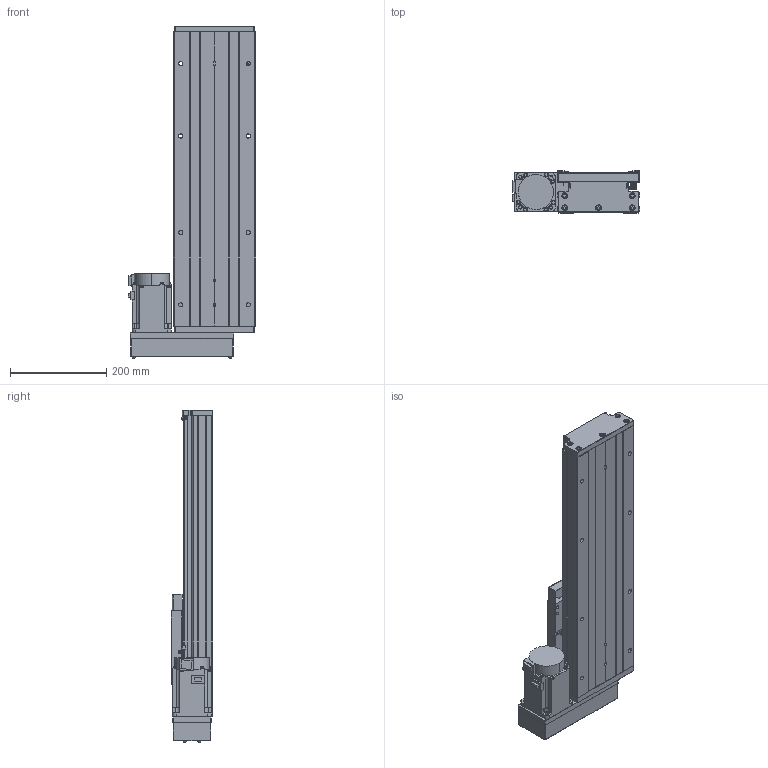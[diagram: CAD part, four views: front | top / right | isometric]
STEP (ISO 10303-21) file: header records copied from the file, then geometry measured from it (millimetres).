
FILE_DESCRIPTION (( 'STEP AP203' ), '1' );
FILE_NAME ('GTH17-350-BL-M75-C4.step', '2023-06-30T12:00:20', ( '微软用户' ), ( '微软中国' ), 'SwSTEP 2.0', 'SolidWorks 2020', '' );
FILE_SCHEMA (( 'CONFIG_CONTROL_DESIGN' ));
Length unit declared in the file: millimetre
Products named in the file (19): GBT 70.2-M4¡Á45_M4¡Á35; GTH17-004; GBT77-2000 M3×3; GTH17-015-2_CTHA86-015-2; GTH17-005; GBT 70.1-M6¡Á20_M6¡Á20; GTH17-033; GB1155-6X6; GTH17-031; GTH17-350-BL-M75-C4; CTHA60-017; GBT 70.2-M3¡Á5_M3¡Á6; EE_SX911P_R; す晦芛蹟隊 M3℅5; GTH17-001_350; CTHA60-016; HG-KN73J-S100; GTH17-002_GTH17-002; GBT 70.1-M3℅5
Assembly tree (58 placements, depth 2):
  GTH17-350-BL-M75-C4
    GTH17-001_350
    GTH17-002_GTH17-002
    GTH17-004
    GTH17-005
    GB1155-6X6  x2
    CTHA60-017  x3
    EE_SX911P_R  x3
    CTHA60-016  x2
    GBT 70.1-M3℅5  x6
    GBT77-2000 M3×3  x6
    GBT 70.1-M6¡Á20_M6¡Á20  x10
    GTH17-031
    GBT 70.2-M3¡Á5_M3¡Á6  x8
    す晦芛蹟隊 M3℅5  x6
    HG-KN73J-S100
    GBT 70.2-M4¡Á45_M4¡Á35  x4
    GTH17-015-2_CTHA86-015-2
    GTH17-033
Bounding box: 264.3 x 87 x 688.2 mm (x, y, z)
Volume: 6122364.7 mm3; surface area: 934195 mm2
Topology: 61 solids, 61 shells, 2429 faces, 5797 edges, 3587 vertices
Faces by surface type: plane 1306, cylinder 650, cone 297, torus 124, sphere 32, bspline 20
Entity records: 44122 total; most frequent: CARTESIAN_POINT 10266, DIRECTION 6361, ORIENTED_EDGE 6306, EDGE_CURVE 3153, AXIS2_PLACEMENT_3D 2160, LINE 2041, VECTOR 2041, VERTEX_POINT 1999
